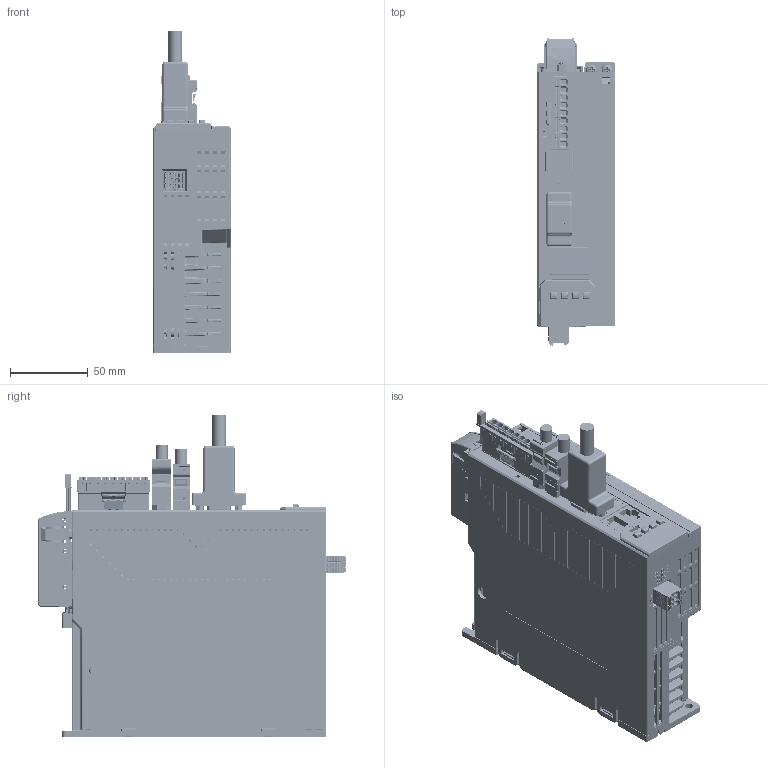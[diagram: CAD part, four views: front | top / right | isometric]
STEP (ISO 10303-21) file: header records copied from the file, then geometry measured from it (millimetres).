
FILE_DESCRIPTION((''),'2;1');
FILE_NAME('SD900-5R5A-EA_ASM','2025-09-28T',('v5489'),(''),'CREO PARAMETRIC BY PTC INC, 2018360','CREO PARAMETRIC BY PTC INC, 2018360','');
FILE_SCHEMA(('AP203_CONFIGURATION_CONTROLLED_3D_DESIGN_OF_MECHANICAL_PARTS_AND_ASSEMBLIES_MIM_LF { 1 0 10303 403 2 1 2 }'));
Products named in the file (16): SD900-5R5A-EA; SD900-DCH-P001_284; SD900-DCH-N001_98; 14505_50_1; 14505_50_2; 14505_50_3; 14505_50_ASM; S6-C4A_31; SD900-DCH-P_ASM_535_ASM; SD900-DCH-P_ASM_ASM; F9AP-5_0-09P-A; 5006540609; 1394SM_10P_; DB-15-1; 15EDGKNH-3_5-04P-14-00A_H_; SD900-5R5A-EA_ASM
Assembly tree (15 placements, depth 5):
  SD900-5R5A-EA_ASM
    SD900-5R5A-EA
    SD900-DCH-P_ASM_ASM
      SD900-DCH-P_ASM_535_ASM
        SD900-DCH-P001_284
        SD900-DCH-N001_98
        14505_50_ASM
          14505_50_1
          14505_50_2
          14505_50_3
        S6-C4A_31
    F9AP-5_0-09P-A
    5006540609
    1394SM_10P_
    DB-15-1
    15EDGKNH-3_5-04P-14-00A_H_
Bounding box: 50 x 198 x 207.45 mm (x, y, z)
Volume: 53619.3 mm3; surface area: 219720.5 mm2
Topology: 17 solids, 52 shells, 11860 faces, 32187 edges, 20517 vertices
Faces by surface type: plane 7262, cylinder 2778, bspline 528, cone 416, torus 401, extrusion 284, sphere 191
Entity records: 449592 total; most frequent: CARTESIAN_POINT 108848, ORIENTED_EDGE 63898, DIRECTION 55674, EDGE_CURVE 32005, VECTOR 22620, LINE 22336, VERTEX_POINT 20512, AXIS2_PLACEMENT_3D 16527
